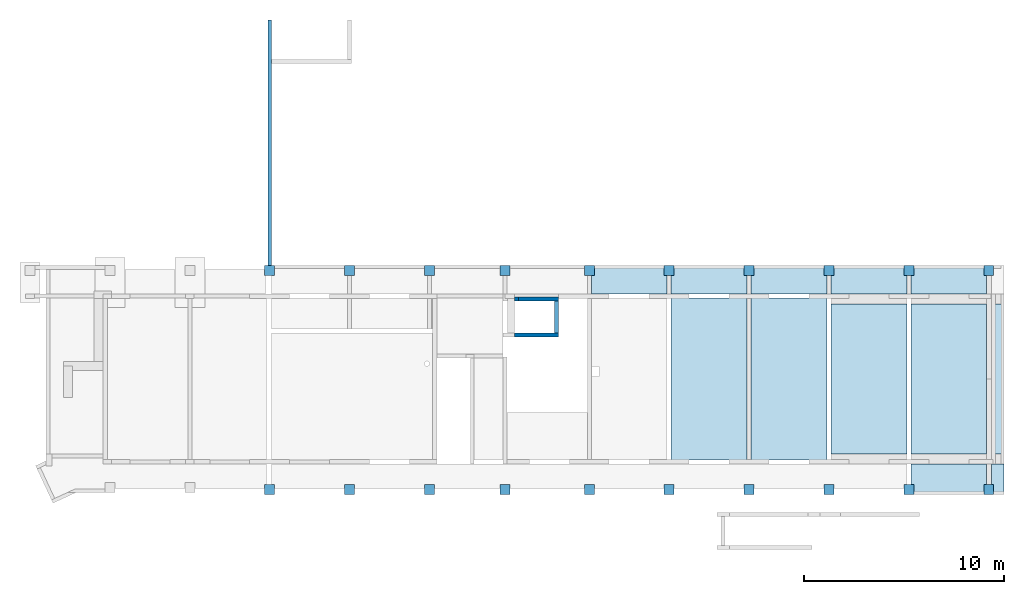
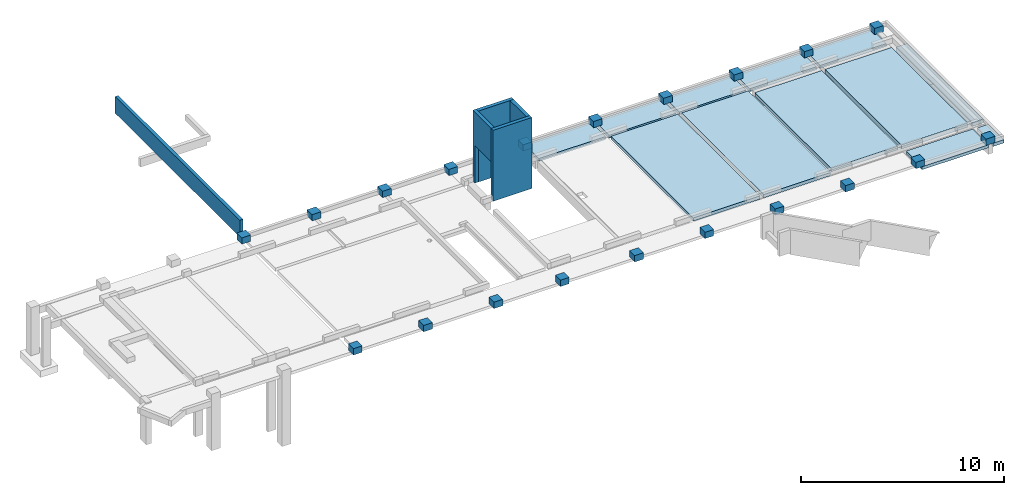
# One storey, part 4 of 5: 32 slabs, 5 walls, 6 openings.
"""IFC2X3 building model written with IfcOpenShell, lengths in metres."""

from ifc_helpers import new_model, entity, si_unit, converted_unit, derived_unit, direction, frame, frame_2d, origin, origin_2d_with_axis, place, context, subcontext, project, spatial, rectangle, extrude, clip, halfspace, material, layer, layer_set, layer_usage, type_object, element, save


model = new_model("IFC2X3")

# Units and contexts
model_context = context("Model", 3, precision=1e-05, world=origin(), true_north=direction((6.12303176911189e-17, 1.0)))
body_context = subcontext(model_context, "Body", "Model", "MODEL_VIEW")
ifc_project = project(units=[si_unit("LENGTHUNIT", "METRE"), si_unit("AREAUNIT", "SQUARE_METRE"), si_unit("VOLUMEUNIT", "CUBIC_METRE"), converted_unit("PLANEANGLEUNIT", "DEGREE", entity("IfcRatioMeasure", 0.0174532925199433), si_unit("PLANEANGLEUNIT", "RADIAN"), dimensions=[0, 0, 0, 0, 0, 0, 0]), si_unit("MASSUNIT", "GRAM", prefix="KILO"), derived_unit("MASSDENSITYUNIT", [(si_unit("MASSUNIT", "GRAM", prefix="KILO"), 1), (si_unit("LENGTHUNIT", "METRE"), -3)]), si_unit("TIMEUNIT", "SECOND"), si_unit("FREQUENCYUNIT", "HERTZ"), si_unit("THERMODYNAMICTEMPERATUREUNIT", "DEGREE_CELSIUS"), derived_unit("THERMALTRANSMITTANCEUNIT", [(si_unit("MASSUNIT", "GRAM", prefix="KILO"), 1), (si_unit("THERMODYNAMICTEMPERATUREUNIT", "KELVIN"), -1), (si_unit("TIMEUNIT", "SECOND"), -3)]), derived_unit("VOLUMETRICFLOWRATEUNIT", [(si_unit("LENGTHUNIT", "METRE"), 3), (si_unit("TIMEUNIT", "SECOND"), -1)]), si_unit("ELECTRICCURRENTUNIT", "AMPERE"), si_unit("ELECTRICVOLTAGEUNIT", "VOLT"), si_unit("POWERUNIT", "WATT"), si_unit("FORCEUNIT", "NEWTON"), si_unit("ILLUMINANCEUNIT", "LUX"), si_unit("LUMINOUSFLUXUNIT", "LUMEN"), si_unit("LUMINOUSINTENSITYUNIT", "CANDELA"), derived_unit("USERDEFINED", [(si_unit("MASSUNIT", "GRAM", prefix="KILO"), -1), (si_unit("LENGTHUNIT", "METRE"), -2), (si_unit("TIMEUNIT", "SECOND"), 3), (si_unit("LUMINOUSFLUXUNIT", "LUMEN"), 1)]), derived_unit("LINEARVELOCITYUNIT", [(si_unit("LENGTHUNIT", "METRE"), 1), (si_unit("TIMEUNIT", "SECOND"), -1)]), si_unit("PRESSUREUNIT", "PASCAL"), derived_unit("USERDEFINED", [(si_unit("LENGTHUNIT", "METRE"), -2), (si_unit("MASSUNIT", "GRAM", prefix="KILO"), 1), (si_unit("TIMEUNIT", "SECOND"), -2)])], contexts=[model_context])

# Site, building, storey
site_placement = place(None, origin())
site = spatial("IfcSite", under=ifc_project, at=site_placement, Name="Default", CompositionType="ELEMENT")
building_placement = place(site_placement, origin())
building = spatial("IfcBuilding", under=site, at=building_placement, CompositionType="ELEMENT")
storey_placement = place(building_placement, origin())
storey = spatial("IfcBuildingStorey", under=building, at=storey_placement, Name="S01", CompositionType="ELEMENT", Elevation=0.0)

# Slabs
ifc_material_1 = material(Name="Sol par défaut")
ifc_layer_1 = layer(ifc_material_1, 0.2)
ifc_layer_set_1 = layer_set([ifc_layer_1], Name="Floor:Dalle BA ép.20")
ifc_layer_usage_1 = layer_usage(ifc_layer_set_1, "AXIS3", "POSITIVE", 0.0)
slab_type_1 = type_object("IfcSlabType", Name="Floor:Dalle BA ép.20", PredefinedType="FLOOR", material=ifc_layer_set_1)
slab_1_placement = place(storey_placement, origin())
element("IfcSlab", 1, at=slab_1_placement, inside=storey, type_object=slab_type_1, material=ifc_layer_usage_1, Name="Floor:Dalle BA ép.20", ObjectType="Floor:Dalle BA ép.20", PredefinedType="FLOOR", context=body_context, shape_type="SweptSolid", body=[
    extrude(rectangle(XDim=8.10316304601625, YDim=3.79999999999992, at=frame_2d((1.73194791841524e-14, -4.32986979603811e-15), x_axis=(1.0, 0.0))), frame((55.4897436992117, -189.208069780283, -0.00999999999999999), z_axis=(0.0, 0.0, -1.0), x_axis=(0.0, 1.0, 0.0)), (0.0, 0.0, 1.0), 0.2),
])
ifc_layer_2 = layer(ifc_material_1, 0.22)
ifc_layer_set_2 = layer_set([ifc_layer_2], Name="Floor:Dalle BA ép.22")
ifc_layer_usage_2 = layer_usage(ifc_layer_set_2, "AXIS3", "POSITIVE", 0.0)
slab_type_2 = type_object("IfcSlabType", Name="Floor:Dalle BA ép.22", PredefinedType="FLOOR", material=ifc_layer_set_2)
slab_2_placement = place(storey_placement, origin())
element("IfcSlab", 2, at=slab_2_placement, inside=storey, type_object=slab_type_2, material=ifc_layer_usage_2, Name="Floor:Dalle BA ép.22", ObjectType="Floor:Dalle BA ép.22", PredefinedType="FLOOR", context=body_context, shape_type="SweptSolid", body=[
    extrude(rectangle(XDim=7.50316304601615, YDim=3.79999999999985, at=origin_2d_with_axis()), frame((63.4897436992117, -189.208069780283, -0.00999999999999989), z_axis=(0.0, 0.0, -1.0), x_axis=(0.0, 1.0, 0.0)), (0.0, 0.0, 1.0), 0.22),
])
ifc_layer_3 = layer(ifc_material_1, 0.25)
ifc_layer_set_3 = layer_set([ifc_layer_3], Name="Floor:Dalle BA ép.25")
ifc_layer_usage_3 = layer_usage(ifc_layer_set_3, "AXIS3", "POSITIVE", 0.0)
slab_type_3 = type_object("IfcSlabType", Name="Floor:Dalle BA ép.25", PredefinedType="FLOOR", material=ifc_layer_set_3)
slab_3_placement = place(storey_placement, origin())
element("IfcSlab", 3, at=slab_3_placement, inside=storey, type_object=slab_type_3, material=ifc_layer_usage_3, Name="Floor:Dalle BA ép.25", ObjectType="Floor:Dalle BA ép.25", PredefinedType="FLOOR", context=body_context, shape_type="SweptSolid", body=[
    extrude(rectangle(XDim=7.50316304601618, YDim=3.77499999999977, at=frame_2d((-1.73194791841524e-14, 4.32986979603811e-15), x_axis=(1.0, 0.0))), frame((67.4772436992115, -189.208069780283, -0.00999999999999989), z_axis=(0.0, 0.0, -1.0), x_axis=(0.0, 1.0, 0.0)), (0.0, 0.0, 1.0), 0.25),
])
ifc_layer_4 = layer(ifc_material_1, 0.18)
ifc_layer_set_4 = layer_set([ifc_layer_4], Name="Floor:Dalle BA ép.18")
ifc_layer_usage_4 = layer_usage(ifc_layer_set_4, "AXIS3", "POSITIVE", 0.0)
slab_type_4 = type_object("IfcSlabType", Name="Floor:Dalle BA ép.18", PredefinedType="FLOOR", material=ifc_layer_set_4)
slab_4_placement = place(storey_placement, origin())
element("IfcSlab", 4, at=slab_4_placement, inside=storey, type_object=slab_type_4, material=ifc_layer_usage_4, Name="Floor:Dalle BA ép.18", ObjectType="Floor:Dalle BA ép.18", PredefinedType="FLOOR", context=body_context, shape_type="Clipping", body=[
    clip(clip(extrude(rectangle(XDim=1.54179862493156, YDim=3.77499999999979, at=frame_2d((0.0, -4.32986979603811e-15), x_axis=(1.0, 0.0))), frame((67.4772436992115, -194.230485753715, -0.0700000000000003), z_axis=(0.0, 0.0129718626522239, -0.999915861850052), x_axis=(0.0, 0.999915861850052, 0.0129718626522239)), (-0.0129718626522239, 0.0, 0.999915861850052), 0.200016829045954), halfspace(frame((65.5897436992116, -195.001320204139, -0.26), z_axis=(0.0, 0.0, -1.0), x_axis=(0.0, 1.0, 0.0)), False)), halfspace(frame((67.4772436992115, -194.230485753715, -0.0700000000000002), z_axis=(0.0, -0.0129718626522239, 0.999915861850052), x_axis=(0.0, 0.999915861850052, 0.0129718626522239)), False)),
])
ifc_layer_5 = layer(ifc_material_1, 0.23)
ifc_layer_set_5 = layer_set([ifc_layer_5], Name="Floor:Dalle BA ép.23")
ifc_layer_usage_5 = layer_usage(ifc_layer_set_5, "AXIS3", "POSITIVE", 0.0)
slab_type_5 = type_object("IfcSlabType", Name="Floor:Dalle BA ép.23", PredefinedType="FLOOR", material=ifc_layer_set_5)
slab_5_placement = place(storey_placement, origin())
element("IfcSlab", 5, at=slab_5_placement, inside=storey, type_object=slab_type_5, material=ifc_layer_usage_5, Name="Floor:Dalle BA ép.23", ObjectType="Floor:Dalle BA ép.23", PredefinedType="FLOOR", context=body_context, shape_type="SweptSolid", body=[
    extrude(rectangle(XDim=7.50316304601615, YDim=0.638295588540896, at=frame_2d((0.0, -4.32986979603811e-15), x_axis=(1.0, 0.0))), frame((69.9338914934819, -189.208069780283, -0.0800000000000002), z_axis=(0.0, 0.0, -1.0), x_axis=(0.0, 1.0, 0.0)), (0.0, 0.0, 1.0), 0.23),
])
ifc_layer_usage_6 = layer_usage(ifc_layer_set_1, "AXIS3", "POSITIVE", 0.0)
slab_type_6 = type_object("IfcSlabType", Name="Floor:Dalle BA ép.20", PredefinedType="FLOOR", material=ifc_layer_set_1)
slab_6_placement = place(storey_placement, origin())
element("IfcSlab", 6, at=slab_6_placement, inside=storey, type_object=slab_type_6, material=ifc_layer_usage_6, Name="Floor:Dalle BA ép.20", ObjectType="Floor:Dalle BA ép.20", PredefinedType="FLOOR", context=body_context, shape_type="SweptSolid", body=[
    extrude(rectangle(XDim=1.54166890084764, YDim=0.638295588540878, at=frame_2d((1.73194791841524e-14, 4.32986979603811e-15), x_axis=(1.0, 0.0))), frame((69.9338914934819, -194.230485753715, -0.0800000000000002), z_axis=(0.0, 0.0, -1.0), x_axis=(0.0, 1.0, 0.0)), (0.0, 0.0, 1.0), 0.2),
])
ifc_layer_usage_7 = layer_usage(ifc_layer_set_4, "AXIS3", "POSITIVE", 0.0)
slab_type_7 = type_object("IfcSlabType", Name="Floor:Dalle BA ép.18", PredefinedType="FLOOR", material=ifc_layer_set_4)
slab_7_placement = place(storey_placement, origin())
element("IfcSlab", 7, at=slab_7_placement, inside=storey, type_object=slab_type_7, material=ifc_layer_usage_7, Name="Floor:Dalle BA ép.18", ObjectType="Floor:Dalle BA ép.18", PredefinedType="FLOOR", context=body_context, shape_type="SweptSolid", body=[
    extrude(rectangle(XDim=1.44166921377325, YDim=3.77499999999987, at=frame_2d((1.73194791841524e-14, 0.0), x_axis=(1.0, 0.0))), frame((67.4772436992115, -184.235653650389, -0.0800000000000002), z_axis=(0.0, 0.0, -1.0), x_axis=(0.0, 1.0, 0.0)), (0.0, 0.0, 1.0), 0.18),
])
ifc_layer_usage_8 = layer_usage(ifc_layer_set_4, "AXIS3", "POSITIVE", 0.0)
slab_type_8 = type_object("IfcSlabType", Name="Floor:Dalle BA ép.18", PredefinedType="FLOOR", material=ifc_layer_set_4)
slab_8_placement = place(storey_placement, origin())
element("IfcSlab", 8, at=slab_8_placement, inside=storey, type_object=slab_type_8, material=ifc_layer_usage_8, Name="Floor:Dalle BA ép.18", ObjectType="Floor:Dalle BA ép.18", PredefinedType="FLOOR", context=body_context, shape_type="SweptSolid", body=[
    extrude(rectangle(XDim=1.44166921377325, YDim=3.79999999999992, at=frame_2d((1.73194791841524e-14, 0.0), x_axis=(1.0, 0.0))), frame((63.4897436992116, -184.235653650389, -0.08), z_axis=(0.0, 0.0, -1.0), x_axis=(0.0, 1.0, 0.0)), (0.0, 0.0, 1.0), 0.18),
])
ifc_layer_usage_9 = layer_usage(ifc_layer_set_4, "AXIS3", "POSITIVE", 0.0)
slab_type_9 = type_object("IfcSlabType", Name="Floor:Dalle BA ép.18", PredefinedType="FLOOR", material=ifc_layer_set_4)
slab_9_placement = place(storey_placement, origin())
element("IfcSlab", 9, at=slab_9_placement, inside=storey, type_object=slab_type_9, material=ifc_layer_usage_9, Name="Floor:Dalle BA ép.18", ObjectType="Floor:Dalle BA ép.18", PredefinedType="FLOOR", context=body_context, shape_type="SweptSolid", body=[
    extrude(rectangle(XDim=1.44166921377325, YDim=3.79999999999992, at=frame_2d((1.73194791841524e-14, 0.0), x_axis=(1.0, 0.0))), frame((59.4897436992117, -184.235653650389, -0.08), z_axis=(0.0, 0.0, -1.0), x_axis=(0.0, 1.0, 0.0)), (0.0, 0.0, 1.0), 0.18),
])
ifc_layer_usage_10 = layer_usage(ifc_layer_set_4, "AXIS3", "POSITIVE", 0.0)
slab_type_10 = type_object("IfcSlabType", Name="Floor:Dalle BA ép.18", PredefinedType="FLOOR", material=ifc_layer_set_4)
slab_10_placement = place(storey_placement, origin())
element("IfcSlab", 10, at=slab_10_placement, inside=storey, type_object=slab_type_10, material=ifc_layer_usage_10, Name="Floor:Dalle BA ép.18", ObjectType="Floor:Dalle BA ép.18", PredefinedType="FLOOR", context=body_context, shape_type="SweptSolid", body=[
    extrude(rectangle(XDim=1.44166921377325, YDim=3.79999999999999, at=frame_2d((1.73194791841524e-14, -4.32986979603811e-15), x_axis=(1.0, 0.0))), frame((55.4897436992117, -184.235653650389, -0.08), z_axis=(0.0, 0.0, -1.0), x_axis=(0.0, 1.0, 0.0)), (0.0, 0.0, 1.0), 0.18),
])
ifc_layer_usage_11 = layer_usage(ifc_layer_set_4, "AXIS3", "POSITIVE", 0.0)
slab_type_11 = type_object("IfcSlabType", Name="Floor:Dalle BA ép.18", PredefinedType="FLOOR", material=ifc_layer_set_4)
slab_11_placement = place(storey_placement, origin())
element("IfcSlab", 11, at=slab_11_placement, inside=storey, type_object=slab_type_11, material=ifc_layer_usage_11, Name="Floor:Dalle BA ép.18", ObjectType="Floor:Dalle BA ép.18", PredefinedType="FLOOR", context=body_context, shape_type="SweptSolid", body=[
    extrude(rectangle(XDim=1.44166921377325, YDim=3.80000000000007, at=frame_2d((1.73194791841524e-14, 0.0), x_axis=(1.0, 0.0))), frame((51.4897436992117, -184.235653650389, -0.08), z_axis=(0.0, 0.0, -1.0), x_axis=(0.0, 1.0, 0.0)), (0.0, 0.0, 1.0), 0.18),
])
ifc_material_2 = material(Name="Béton - Béton coulé sur place")
slab_type_12 = type_object("IfcSlabType", Name="50x50x38ht", PredefinedType="FLOOR", material=ifc_material_2)
slab_12_placement = place(storey_placement, origin())
element("IfcSlab", 12, at=slab_12_placement, inside=storey, type_object=slab_type_12, Name="M_Base-Rectangulaire:50x50x38ht", ObjectType="M_Base-Rectangulaire:50x50x38ht", PredefinedType="FLOOR", context=body_context, shape_type="SweptSolid", body=[
    extrude(rectangle(XDim=0.499999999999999, YDim=0.49999999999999, at=frame_2d((4.34374758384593e-15, -1.73333569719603e-14), x_axis=(1.0, 0.0))), frame((33.4897436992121, -183.764819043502, -0.08), z_axis=(0.0, 0.0, 1.0), x_axis=(-1.0, 0.0, 0.0)), (0.0, 0.0, 1.0), 0.38),
])
slab_type_13 = type_object("IfcSlabType", Name="50x50x38ht", PredefinedType="FLOOR", material=ifc_material_2)
slab_13_placement = place(storey_placement, origin())
element("IfcSlab", 13, at=slab_13_placement, inside=storey, type_object=slab_type_13, Name="M_Base-Rectangulaire:50x50x38ht", ObjectType="M_Base-Rectangulaire:50x50x38ht", PredefinedType="FLOOR", context=body_context, shape_type="SweptSolid", body=[
    extrude(rectangle(XDim=0.499999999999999, YDim=0.49999999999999, at=frame_2d((0.0357142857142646, 0.0842857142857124), x_axis=(1.0, 0.0))), frame((37.5254579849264, -183.680533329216, -0.08), z_axis=(0.0, 0.0, 1.0), x_axis=(-1.0, 0.0, 0.0)), (0.0, 0.0, 1.0), 0.38),
])
slab_type_14 = type_object("IfcSlabType", Name="50x50x38ht", PredefinedType="FLOOR", material=ifc_material_2)
slab_14_placement = place(storey_placement, origin())
element("IfcSlab", 14, at=slab_14_placement, inside=storey, type_object=slab_type_14, Name="M_Base-Rectangulaire:50x50x38ht", ObjectType="M_Base-Rectangulaire:50x50x38ht", PredefinedType="FLOOR", context=body_context, shape_type="SweptSolid", body=[
    extrude(rectangle(XDim=0.499999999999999, YDim=0.49999999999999, at=frame_2d((-3.03229663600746e-14, 0.0850000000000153), x_axis=(1.0, 0.0))), frame((41.4897436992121, -183.679819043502, -0.08), z_axis=(0.0, 0.0, 1.0), x_axis=(-1.0, 0.0, 0.0)), (0.0, 0.0, 1.0), 0.38),
])
slab_type_15 = type_object("IfcSlabType", Name="50x50x38ht", PredefinedType="FLOOR", material=ifc_material_2)
slab_15_placement = place(storey_placement, origin())
element("IfcSlab", 15, at=slab_15_placement, inside=storey, type_object=slab_type_15, Name="M_Base-Rectangulaire:50x50x38ht", ObjectType="M_Base-Rectangulaire:50x50x38ht", PredefinedType="FLOOR", context=body_context, shape_type="SweptSolid", body=[
    extrude(rectangle(XDim=0.499999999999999, YDim=0.49999999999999, at=frame_2d((-4.34374758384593e-15, 0.0299999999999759), x_axis=(1.0, 0.0))), frame((45.2697436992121, -183.734819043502, -0.08), z_axis=(0.0, 0.0, 1.0), x_axis=(-1.0, 0.0, 0.0)), (0.0, 0.0, 1.0), 0.38),
])
slab_type_16 = type_object("IfcSlabType", Name="50x50x38ht", PredefinedType="FLOOR", material=ifc_material_2)
slab_16_placement = place(storey_placement, origin())
element("IfcSlab", 16, at=slab_16_placement, inside=storey, type_object=slab_type_16, Name="M_Base-Rectangulaire:50x50x38ht", ObjectType="M_Base-Rectangulaire:50x50x38ht", PredefinedType="FLOOR", context=body_context, shape_type="SweptSolid", body=[
    extrude(rectangle(XDim=0.499999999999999, YDim=0.49999999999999, at=frame_2d((-7.36355421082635e-14, 0.0850000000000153), x_axis=(1.0, 0.0))), frame((49.4897436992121, -183.679819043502, -0.08), z_axis=(0.0, 0.0, 1.0), x_axis=(-1.0, 0.0, 0.0)), (0.0, 0.0, 1.0), 0.38),
])
slab_type_17 = type_object("IfcSlabType", Name="50x50x38ht", PredefinedType="FLOOR", material=ifc_material_2)
slab_17_placement = place(storey_placement, origin())
element("IfcSlab", 17, at=slab_17_placement, inside=storey, type_object=slab_type_17, Name="M_Base-Rectangulaire:50x50x38ht", ObjectType="M_Base-Rectangulaire:50x50x38ht", PredefinedType="FLOOR", context=body_context, shape_type="SweptSolid", body=[
    extrude(rectangle(XDim=0.499999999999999, YDim=0.49999999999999, at=frame_2d((-9.0955021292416e-14, 0.0850000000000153), x_axis=(1.0, 0.0))), frame((53.489743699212, -183.679819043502, -0.08), z_axis=(0.0, 0.0, 1.0), x_axis=(-1.0, 0.0, 0.0)), (0.0, 0.0, 1.0), 0.38),
])
slab_type_18 = type_object("IfcSlabType", Name="50x50x38ht", PredefinedType="FLOOR", material=ifc_material_2)
slab_18_placement = place(storey_placement, origin())
element("IfcSlab", 18, at=slab_18_placement, inside=storey, type_object=slab_type_18, Name="M_Base-Rectangulaire:50x50x38ht", ObjectType="M_Base-Rectangulaire:50x50x38ht", PredefinedType="FLOOR", context=body_context, shape_type="SweptSolid", body=[
    extrude(rectangle(XDim=0.499999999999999, YDim=0.49999999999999, at=frame_2d((-1.08274500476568e-13, 0.0850000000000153), x_axis=(1.0, 0.0))), frame((57.489743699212, -183.679819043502, -0.08), z_axis=(0.0, 0.0, 1.0), x_axis=(-1.0, 0.0, 0.0)), (0.0, 0.0, 1.0), 0.38),
])
slab_type_19 = type_object("IfcSlabType", Name="50x50x38ht", PredefinedType="FLOOR", material=ifc_material_2)
slab_19_placement = place(storey_placement, origin())
element("IfcSlab", 19, at=slab_19_placement, inside=storey, type_object=slab_type_19, Name="M_Base-Rectangulaire:50x50x38ht", ObjectType="M_Base-Rectangulaire:50x50x38ht", PredefinedType="FLOOR", context=body_context, shape_type="SweptSolid", body=[
    extrude(rectangle(XDim=0.499999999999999, YDim=0.49999999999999, at=frame_2d((-1.34267597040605e-13, 0.0850000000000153), x_axis=(1.0, 0.0))), frame((61.489743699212, -183.679819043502, -0.08), z_axis=(0.0, 0.0, 1.0), x_axis=(-1.0, 0.0, 0.0)), (0.0, 0.0, 1.0), 0.38),
])
slab_type_20 = type_object("IfcSlabType", Name="50x50x38ht", PredefinedType="FLOOR", material=ifc_material_2)
slab_20_placement = place(storey_placement, origin())
element("IfcSlab", 20, at=slab_20_placement, inside=storey, type_object=slab_type_20, Name="M_Base-Rectangulaire:50x50x38ht", ObjectType="M_Base-Rectangulaire:50x50x38ht", PredefinedType="FLOOR", context=body_context, shape_type="SweptSolid", body=[
    extrude(rectangle(XDim=0.499999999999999, YDim=0.49999999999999, at=frame_2d((-1.42955092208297e-13, 0.0850000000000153), x_axis=(1.0, 0.0))), frame((65.4897436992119, -183.679819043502, -0.08), z_axis=(0.0, 0.0, 1.0), x_axis=(-1.0, 0.0, 0.0)), (0.0, 0.0, 1.0), 0.38),
])
slab_type_21 = type_object("IfcSlabType", Name="50x50x38ht", PredefinedType="FLOOR", material=ifc_material_2)
slab_21_placement = place(storey_placement, origin())
element("IfcSlab", 21, at=slab_21_placement, inside=storey, type_object=slab_type_21, Name="M_Base-Rectangulaire:50x50x38ht", ObjectType="M_Base-Rectangulaire:50x50x38ht", PredefinedType="FLOOR", context=body_context, shape_type="SweptSolid", body=[
    extrude(rectangle(XDim=0.499999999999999, YDim=0.49999999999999, at=frame_2d((-0.049999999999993, 0.0179999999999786), x_axis=(1.0, 0.0))), frame((69.439743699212, -183.746819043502, -0.08), z_axis=(0.0, 0.0, 1.0), x_axis=(-1.0, 0.0, 0.0)), (0.0, 0.0, 1.0), 0.38),
])
slab_type_22 = type_object("IfcSlabType", Name="50x50x38ht", PredefinedType="FLOOR", material=ifc_material_2)
slab_22_placement = place(storey_placement, origin())
element("IfcSlab", 22, at=slab_22_placement, inside=storey, type_object=slab_type_22, Name="M_Base-Rectangulaire:50x50x38ht", ObjectType="M_Base-Rectangulaire:50x50x38ht", PredefinedType="FLOOR", context=body_context, shape_type="SweptSolid", body=[
    extrude(rectangle(XDim=0.49999999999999, YDim=0.499999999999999, at=frame_2d((1.73333569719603e-14, 2.17881268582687e-15), x_axis=(1.0, 0.0))), frame((33.4897436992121, -194.751320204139, -0.08), z_axis=(0.0, 0.0, 1.0), x_axis=(0.0, 1.0, 0.0)), (0.0, 0.0, 1.0), 0.38),
])
slab_type_23 = type_object("IfcSlabType", Name="50x50x38ht", PredefinedType="FLOOR", material=ifc_material_2)
slab_23_placement = place(storey_placement, origin())
element("IfcSlab", 23, at=slab_23_placement, inside=storey, type_object=slab_type_23, Name="M_Base-Rectangulaire:50x50x38ht", ObjectType="M_Base-Rectangulaire:50x50x38ht", PredefinedType="FLOOR", context=body_context, shape_type="SweptSolid", body=[
    extrude(rectangle(XDim=0.49999999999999, YDim=0.499999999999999, at=frame_2d((1.73333569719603e-14, 2.17881268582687e-15), x_axis=(1.0, 0.0))), frame((37.4897436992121, -194.751320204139, -0.08), z_axis=(0.0, 0.0, 1.0), x_axis=(0.0, 1.0, 0.0)), (0.0, 0.0, 1.0), 0.38),
])
slab_type_24 = type_object("IfcSlabType", Name="50x50x38ht", PredefinedType="FLOOR", material=ifc_material_2)
slab_24_placement = place(storey_placement, origin())
element("IfcSlab", 24, at=slab_24_placement, inside=storey, type_object=slab_type_24, Name="M_Base-Rectangulaire:50x50x38ht", ObjectType="M_Base-Rectangulaire:50x50x38ht", PredefinedType="FLOOR", context=body_context, shape_type="SweptSolid", body=[
    extrude(rectangle(XDim=0.49999999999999, YDim=0.499999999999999, at=frame_2d((1.73333569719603e-14, 4.34374758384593e-15), x_axis=(1.0, 0.0))), frame((41.4897436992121, -194.751320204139, -0.08), z_axis=(0.0, 0.0, 1.0), x_axis=(0.0, 1.0, 0.0)), (0.0, 0.0, 1.0), 0.38),
])
slab_type_25 = type_object("IfcSlabType", Name="50x50x38ht", PredefinedType="FLOOR", material=ifc_material_2)
slab_25_placement = place(storey_placement, origin())
element("IfcSlab", 25, at=slab_25_placement, inside=storey, type_object=slab_type_25, Name="M_Base-Rectangulaire:50x50x38ht", ObjectType="M_Base-Rectangulaire:50x50x38ht", PredefinedType="FLOOR", context=body_context, shape_type="SweptSolid", body=[
    extrude(rectangle(XDim=0.49999999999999, YDim=0.499999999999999, at=frame_2d((1.73333569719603e-14, -4.34374758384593e-15), x_axis=(1.0, 0.0))), frame((45.2697436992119, -194.751320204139, -0.08), z_axis=(0.0, 0.0, 1.0), x_axis=(0.0, 1.0, 0.0)), (0.0, 0.0, 1.0), 0.38),
])
slab_type_26 = type_object("IfcSlabType", Name="50x50x38ht", PredefinedType="FLOOR", material=ifc_material_2)
slab_26_placement = place(storey_placement, origin())
element("IfcSlab", 26, at=slab_26_placement, inside=storey, type_object=slab_type_26, Name="M_Base-Rectangulaire:50x50x38ht", ObjectType="M_Base-Rectangulaire:50x50x38ht", PredefinedType="FLOOR", context=body_context, shape_type="SweptSolid", body=[
    extrude(rectangle(XDim=0.49999999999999, YDim=0.499999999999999, at=frame_2d((1.73333569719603e-14, -4.34374758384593e-15), x_axis=(1.0, 0.0))), frame((49.4897436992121, -194.751320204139, -0.08), z_axis=(0.0, 0.0, 1.0), x_axis=(0.0, 1.0, 0.0)), (0.0, 0.0, 1.0), 0.38),
])
slab_type_27 = type_object("IfcSlabType", Name="50x50x38ht", PredefinedType="FLOOR", material=ifc_material_2)
slab_27_placement = place(storey_placement, origin())
element("IfcSlab", 27, at=slab_27_placement, inside=storey, type_object=slab_type_27, Name="M_Base-Rectangulaire:50x50x38ht", ObjectType="M_Base-Rectangulaire:50x50x38ht", PredefinedType="FLOOR", context=body_context, shape_type="SweptSolid", body=[
    extrude(rectangle(XDim=0.49999999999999, YDim=0.499999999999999, at=frame_2d((1.73333569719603e-14, -4.34374758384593e-15), x_axis=(1.0, 0.0))), frame((53.4897436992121, -194.751320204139, -0.08), z_axis=(0.0, 0.0, 1.0), x_axis=(0.0, 1.0, 0.0)), (0.0, 0.0, 1.0), 0.38),
])
slab_type_28 = type_object("IfcSlabType", Name="50x50x38ht", PredefinedType="FLOOR", material=ifc_material_2)
slab_28_placement = place(storey_placement, origin())
element("IfcSlab", 28, at=slab_28_placement, inside=storey, type_object=slab_type_28, Name="M_Base-Rectangulaire:50x50x38ht", ObjectType="M_Base-Rectangulaire:50x50x38ht", PredefinedType="FLOOR", context=body_context, shape_type="SweptSolid", body=[
    extrude(rectangle(XDim=0.49999999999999, YDim=0.499999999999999, at=frame_2d((1.73333569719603e-14, 4.34374758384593e-15), x_axis=(1.0, 0.0))), frame((57.4897436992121, -194.751320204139, -0.08), z_axis=(0.0, 0.0, 1.0), x_axis=(0.0, 1.0, 0.0)), (0.0, 0.0, 1.0), 0.38),
])
slab_type_29 = type_object("IfcSlabType", Name="50x50x38ht", PredefinedType="FLOOR", material=ifc_material_2)
slab_29_placement = place(storey_placement, origin())
element("IfcSlab", 29, at=slab_29_placement, inside=storey, type_object=slab_type_29, Name="M_Base-Rectangulaire:50x50x38ht", ObjectType="M_Base-Rectangulaire:50x50x38ht", PredefinedType="FLOOR", context=body_context, shape_type="SweptSolid", body=[
    extrude(rectangle(XDim=0.49999999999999, YDim=0.499999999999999, at=frame_2d((1.73333569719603e-14, -4.34374758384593e-15), x_axis=(1.0, 0.0))), frame((61.4897436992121, -194.751320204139, -0.08), z_axis=(0.0, 0.0, 1.0), x_axis=(0.0, 1.0, 0.0)), (0.0, 0.0, 1.0), 0.38),
])
slab_type_30 = type_object("IfcSlabType", Name="50x50x38ht", PredefinedType="FLOOR", material=ifc_material_2)
slab_30_placement = place(storey_placement, origin())
element("IfcSlab", 30, at=slab_30_placement, inside=storey, type_object=slab_type_30, Name="M_Base-Rectangulaire:50x50x38ht", ObjectType="M_Base-Rectangulaire:50x50x38ht", PredefinedType="FLOOR", context=body_context, shape_type="SweptSolid", body=[
    extrude(rectangle(XDim=0.49999999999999, YDim=0.499999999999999, at=frame_2d((1.73333569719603e-14, -4.34374758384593e-15), x_axis=(1.0, 0.0))), frame((65.489743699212, -194.751320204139, -0.08), z_axis=(0.0, 0.0, 1.0), x_axis=(0.0, 1.0, 0.0)), (0.0, 0.0, 1.0), 0.38),
])
slab_type_31 = type_object("IfcSlabType", Name="50x50x38ht", PredefinedType="FLOOR", material=ifc_material_2)
slab_31_placement = place(storey_placement, origin())
element("IfcSlab", 31, at=slab_31_placement, inside=storey, type_object=slab_type_31, Name="M_Base-Rectangulaire:50x50x38ht", ObjectType="M_Base-Rectangulaire:50x50x38ht", PredefinedType="FLOOR", context=body_context, shape_type="SweptSolid", body=[
    extrude(rectangle(XDim=0.49999999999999, YDim=0.499999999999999, at=frame_2d((0.0180000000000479, 0.0500000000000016), x_axis=(1.0, 0.0))), frame((69.539743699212, -194.769320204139, -0.08), z_axis=(0.0, 0.0, 1.0), x_axis=(0.0, 1.0, 0.0)), (0.0, 0.0, 1.0), 0.38),
])
ifc_layer_usage_12 = layer_usage(ifc_layer_set_1, "AXIS3", "POSITIVE", 0.0)
slab_type_32 = type_object("IfcSlabType", Name="Floor:Dalle BA ép.20", PredefinedType="FLOOR", material=ifc_layer_set_1)
slab_32_placement = place(storey_placement, origin())
element("IfcSlab", 32, at=slab_32_placement, inside=storey, type_object=slab_type_32, material=ifc_layer_usage_12, Name="Floor:Dalle BA ép.20", ObjectType="Floor:Dalle BA ép.20", PredefinedType="FLOOR", context=body_context, shape_type="SweptSolid", body=[
    extrude(rectangle(XDim=8.10316304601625, YDim=3.79999999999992, at=frame_2d((1.73194791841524e-14, 4.32986979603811e-15), x_axis=(1.0, 0.0))), frame((59.4897436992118, -189.208069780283, -0.00999999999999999), z_axis=(0.0, 0.0, -1.0), x_axis=(0.0, 1.0, 0.0)), (0.0, 0.0, 1.0), 0.2),
])

# Wall, openings
ifc_material_3 = material(Name="Mur par défaut")
ifc_layer_6 = layer(ifc_material_3, 0.2)
ifc_layer_set_6 = layer_set([ifc_layer_6], Name="Basic Wall:Mur BA - 20cm")
ifc_layer_usage_13 = layer_usage(ifc_layer_set_6, "AXIS2", "NEGATIVE", 0.1)
wall_type_1 = type_object("IfcWallType", Name="Basic Wall:Mur BA - 20cm", PredefinedType="STANDARD", material=ifc_layer_set_6)
wall_1_placement = place(storey_placement, frame((47.9497436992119, -185.206488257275, 0.0), z_axis=(0.0, 0.0, 1.0), x_axis=(-1.0, 0.0, 0.0)))
wall_1 = element("IfcWallStandardCase", 33, at=wall_1_placement, inside=storey, type_object=wall_type_1, material=ifc_layer_usage_13, Name="Basic Wall:Mur BA - 20cm", ObjectType="Basic Wall:Mur BA - 20cm", context=body_context, shape_type="SweptSolid", body=[
    extrude(rectangle(XDim=1.99999999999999, YDim=0.200000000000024, at=frame_2d((0.999999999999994, 3.4555691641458e-15), x_axis=(-1.0, 0.0))), origin(), (0.0, 0.0, 1.0), 4.27),
])
opening_1_placement = place(wall_1_placement, origin())
element("IfcOpeningElement", 34, at=opening_1_placement, cuts=wall_1, Name="Basic Wall:Mur BA - 20cm", ObjectType="Opening", context=body_context, shape_type="SweptSolid", body=[
    extrude(rectangle(XDim=2.24999999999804, YDim=0.199999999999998, at=frame_2d((-4.32986979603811e-15, 0.0), x_axis=(0.0, 1.0))), frame((2.09999999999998, 0.0999999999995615, 1.12499999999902), z_axis=(0.0, 1.0, 0.0), x_axis=(-1.0, 0.0, 0.0)), (0.0, 0.0, 1.0), 1.59999999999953),
])
opening_2_placement = place(wall_1_placement, origin())
element("IfcOpeningElement", 35, at=opening_2_placement, cuts=wall_1, Name="Basic Wall:Mur BA - 20cm", ObjectType="Opening", context=body_context, shape_type="SweptSolid", body=[
    extrude(rectangle(XDim=2.24999999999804, YDim=0.199999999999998, at=frame_2d((-4.32986979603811e-15, 0.0), x_axis=(0.0, 1.0))), frame((0.100000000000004, 0.100000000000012, 1.12499999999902), z_axis=(0.0, 1.0, 0.0), x_axis=(1.0, 0.0, 0.0)), (0.0, 0.0, 1.0), 1.59999999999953),
])

# Wall, opening
ifc_layer_usage_14 = layer_usage(ifc_layer_set_6, "AXIS2", "NEGATIVE", 0.1)
wall_2_placement = place(storey_placement, frame((45.8497436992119, -185.106488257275, 0.0), z_axis=(0.0, 0.0, 1.0), x_axis=(0.0, -1.0, 0.0)))
wall_2 = element("IfcWallStandardCase", 36, at=wall_2_placement, inside=storey, type_object=wall_type_1, material=ifc_layer_usage_14, Name="Basic Wall:Mur BA - 20cm", ObjectType="Basic Wall:Mur BA - 20cm", context=body_context, shape_type="SweptSolid", body=[
    extrude(rectangle(XDim=1.79999999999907, YDim=0.200000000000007, at=frame_2d((0.899999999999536, 0.0), x_axis=(-1.0, 0.0))), origin(), (0.0, 0.0, 1.0), 4.27),
])
opening_3_placement = place(wall_2_placement, frame((-185.106488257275, -45.8497436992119, 0.0), z_axis=(0.0, 0.0, 1.0), x_axis=(0.0, 1.0, 0.0)))
element("IfcOpeningElement", 37, at=opening_3_placement, cuts=wall_2, Name="Basic Wall:Mur BA - 20cm", ObjectType="Opening", context=body_context, shape_type="SweptSolid", body=[
    extrude(rectangle(XDim=2.24999999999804, YDim=1.59999999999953, at=frame_2d((1.73194791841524e-14, 0.0), x_axis=(0.0, 1.0))), frame((44.2257436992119, -186.106488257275, 1.12499999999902), z_axis=(1.0, 0.0, 0.0), x_axis=(0.0, 1.0, 0.0)), (0.0, 0.0, 1.0), 3.048),
])

# Wall, openings
ifc_layer_usage_15 = layer_usage(ifc_layer_set_6, "AXIS2", "NEGATIVE", 0.1)
wall_3_placement = place(storey_placement, frame((45.749743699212, -187.006488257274, 0.0)))
wall_3 = element("IfcWallStandardCase", 38, at=wall_3_placement, inside=storey, type_object=wall_type_1, material=ifc_layer_usage_15, Name="Basic Wall:Mur BA - 20cm", ObjectType="Basic Wall:Mur BA - 20cm", context=body_context, shape_type="SweptSolid", body=[
    extrude(rectangle(XDim=2.19999999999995, YDim=0.200000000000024, at=frame_2d((1.09999999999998, 0.0), x_axis=(-1.0, 0.0))), origin(), (0.0, 0.0, 1.0), 4.27),
])
opening_4_placement = place(wall_3_placement, origin())
element("IfcOpeningElement", 39, at=opening_4_placement, cuts=wall_3, Name="Basic Wall:Mur BA - 20cm", ObjectType="Opening", context=body_context, shape_type="SweptSolid", body=[
    extrude(rectangle(XDim=2.24999999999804, YDim=0.199999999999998, at=frame_2d((-4.32986979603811e-15, 0.0), x_axis=(0.0, 1.0))), frame((2.09999999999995, 0.0999999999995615, 1.12499999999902), z_axis=(0.0, 1.0, 0.0), x_axis=(-1.0, 0.0, 0.0)), (0.0, 0.0, 1.0), 1.59999999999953),
])
opening_5_placement = place(wall_3_placement, origin())
element("IfcOpeningElement", 40, at=opening_5_placement, cuts=wall_3, Name="Basic Wall:Mur BA - 20cm", ObjectType="Opening", context=body_context, shape_type="SweptSolid", body=[
    extrude(rectangle(XDim=2.24999999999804, YDim=0.199999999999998, at=frame_2d((-4.32986979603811e-15, 0.0), x_axis=(0.0, 1.0))), frame((0.0999999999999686, 0.100000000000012, 1.12499999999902), z_axis=(0.0, 1.0, 0.0), x_axis=(1.0, 0.0, 0.0)), (0.0, 0.0, 1.0), 1.59999999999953),
])

# Wall, opening
ifc_layer_usage_16 = layer_usage(ifc_layer_set_6, "AXIS2", "NEGATIVE", 0.1)
wall_4_placement = place(storey_placement, frame((47.8497436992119, -186.906488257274, 2.24999999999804), z_axis=(0.0, 0.0, 1.0), x_axis=(0.0, 1.0, 0.0)))
wall_4 = element("IfcWallStandardCase", 41, at=wall_4_placement, inside=storey, type_object=wall_type_1, material=ifc_layer_usage_16, Name="Basic Wall:Mur BA - 20cm", ObjectType="Basic Wall:Mur BA - 20cm", context=body_context, shape_type="SweptSolid", body=[
    extrude(rectangle(XDim=1.59999999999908, YDim=0.200000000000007, at=frame_2d((0.799999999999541, 0.0), x_axis=(-1.0, 0.0))), origin(), (0.0, 0.0, 1.0), 2.02000000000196),
])
opening_6_placement = place(wall_4_placement, frame((186.906488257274, 47.8497436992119, -2.24999999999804), z_axis=(0.0, 0.0, 1.0), x_axis=(0.0, -1.0, 0.0)))
element("IfcOpeningElement", 42, at=opening_6_placement, cuts=wall_4, Name="Basic Wall:Mur BA - 20cm", ObjectType="Opening", context=body_context, shape_type="SweptSolid", body=[
    extrude(rectangle(XDim=2.24999999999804, YDim=1.59999999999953, at=frame_2d((1.73194791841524e-14, 0.0), x_axis=(0.0, 1.0))), frame((49.4737436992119, -186.106488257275, 1.12499999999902), z_axis=(-1.0, 0.0, 0.0), x_axis=(0.0, -1.0, 0.0)), (0.0, 0.0, 1.0), 3.048),
])

# Wall
ifc_layer_7 = layer(ifc_material_3, 0.18)
ifc_layer_set_7 = layer_set([ifc_layer_7], Name="Basic Wall:Mur BA - 18cm")
ifc_layer_usage_17 = layer_usage(ifc_layer_set_7, "AXIS2", "NEGATIVE", 0.09)
wall_type_2 = type_object("IfcWallType", Name="Basic Wall:Mur BA - 18cm", PredefinedType="STANDARD", material=ifc_layer_set_7)
wall_5_placement = place(storey_placement, frame((33.4997436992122, -171.23478277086, 0.0), z_axis=(0.0, 0.0, 1.0), x_axis=(0.0, -1.0, 0.0)))
element("IfcWallStandardCase", 43, at=wall_5_placement, inside=storey, type_object=wall_type_2, material=ifc_layer_usage_17, Name="Basic Wall:Mur BA - 18cm", ObjectType="Basic Wall:Mur BA - 18cm", context=body_context, shape_type="SweptSolid", body=[
    extrude(rectangle(XDim=12.2800362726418, YDim=0.180000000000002, at=frame_2d((6.14001813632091, 2.77555756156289e-17), x_axis=(-1.0, 0.0))), origin(), (0.0, 0.0, 1.0), 1.0),
])

save(model, "model.ifc")
